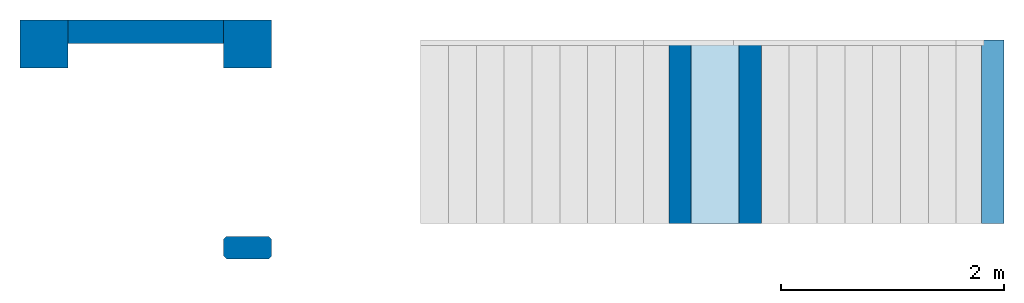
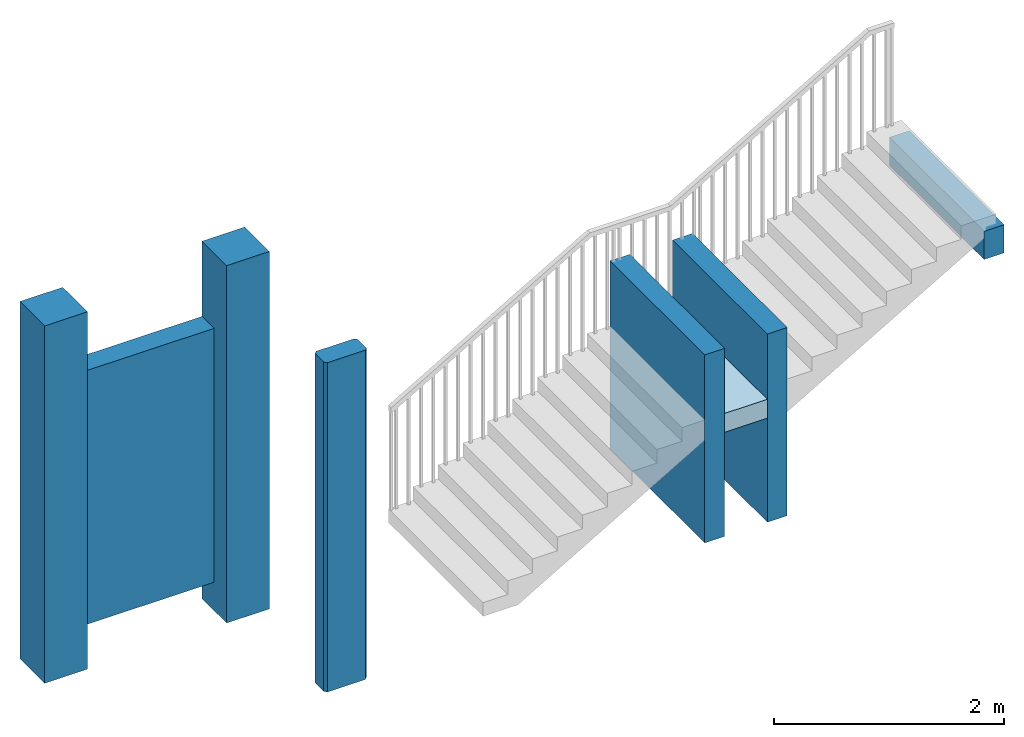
# One storey, part 1 of 3: 3 columns, 3 walls, 1 beam, 1 slab, 1 element without a shape of its own.
"""IFC2X3 building model written with IfcOpenShell, lengths in millimetres."""

from ifc_helpers import new_model, entity, si_unit, converted_unit, derived_unit, direction, frame, frame_2d, origin, origin_2d_with_axis, place, context, subcontext, project, spatial, polyline, rectangle, outline, extrude, source, transform, mapped, material, layer, layer_set, layer_usage, type_object, type_shapes, element, aggregate, save


model = new_model("IFC2X3")

# Units and contexts
model_context = context("Model", 3, precision=0.01, world=origin(), true_north=direction((6.12303176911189e-17, 1.0)))
body_context = subcontext(model_context, "Body", "Model", "MODEL_VIEW")
ifc_project = project(units=[si_unit("LENGTHUNIT", "METRE", prefix="MILLI"), si_unit("AREAUNIT", "SQUARE_METRE"), si_unit("VOLUMEUNIT", "CUBIC_METRE"), converted_unit("PLANEANGLEUNIT", "DEGREE", entity("IfcRatioMeasure", 0.0174532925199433), si_unit("PLANEANGLEUNIT", "RADIAN"), dimensions=[0, 0, 0, 0, 0, 0, 0]), si_unit("MASSUNIT", "GRAM", prefix="KILO"), derived_unit("MASSDENSITYUNIT", [(si_unit("MASSUNIT", "GRAM", prefix="KILO"), 1), (si_unit("LENGTHUNIT", "METRE"), -3)]), derived_unit("MOMENTOFINERTIAUNIT", [(si_unit("LENGTHUNIT", "METRE"), 4)]), si_unit("TIMEUNIT", "SECOND"), si_unit("FREQUENCYUNIT", "HERTZ"), si_unit("THERMODYNAMICTEMPERATUREUNIT", "DEGREE_CELSIUS"), derived_unit("THERMALTRANSMITTANCEUNIT", [(si_unit("MASSUNIT", "GRAM", prefix="KILO"), 1), (si_unit("THERMODYNAMICTEMPERATUREUNIT", "KELVIN"), -1), (si_unit("TIMEUNIT", "SECOND"), -3)]), derived_unit("VOLUMETRICFLOWRATEUNIT", [(si_unit("LENGTHUNIT", "METRE"), 3), (si_unit("TIMEUNIT", "SECOND"), -1)]), si_unit("ELECTRICCURRENTUNIT", "AMPERE"), si_unit("ELECTRICVOLTAGEUNIT", "VOLT"), si_unit("POWERUNIT", "WATT"), si_unit("FORCEUNIT", "NEWTON", prefix="KILO"), si_unit("ILLUMINANCEUNIT", "LUX"), si_unit("LUMINOUSFLUXUNIT", "LUMEN"), si_unit("LUMINOUSINTENSITYUNIT", "CANDELA"), derived_unit("USERDEFINED", [(si_unit("MASSUNIT", "GRAM", prefix="KILO"), -1), (si_unit("LENGTHUNIT", "METRE"), -2), (si_unit("TIMEUNIT", "SECOND"), 3), (si_unit("LUMINOUSFLUXUNIT", "LUMEN"), 1)]), derived_unit("LINEARVELOCITYUNIT", [(si_unit("LENGTHUNIT", "METRE"), 1), (si_unit("TIMEUNIT", "SECOND"), -1)]), si_unit("PRESSUREUNIT", "PASCAL"), derived_unit("USERDEFINED", [(si_unit("LENGTHUNIT", "METRE"), -2), (si_unit("MASSUNIT", "GRAM", prefix="KILO"), 1), (si_unit("TIMEUNIT", "SECOND"), -2)]), derived_unit("LINEARFORCEUNIT", [(si_unit("MASSUNIT", "GRAM", prefix="KILO"), 1), (si_unit("LENGTHUNIT", "METRE"), 1), (si_unit("TIMEUNIT", "SECOND"), -2), (si_unit("LENGTHUNIT", "METRE"), -1)]), derived_unit("PLANARFORCEUNIT", [(si_unit("MASSUNIT", "GRAM", prefix="KILO"), 1), (si_unit("LENGTHUNIT", "METRE"), 1), (si_unit("TIMEUNIT", "SECOND"), -2), (si_unit("LENGTHUNIT", "METRE"), -2)])], contexts=[model_context])

# Site, building, storey
site_placement = place(None, frame((10627.5135316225, 21939.0796949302, 0.0)))
site = spatial("IfcSite", under=ifc_project, at=site_placement, Name="Default", CompositionType="ELEMENT")
building_placement = place(site_placement, origin())
building = spatial("IfcBuilding", under=site, at=building_placement, CompositionType="ELEMENT")
storey_placement = place(building_placement, frame((0.0, 0.0, -3500.0)))
storey = spatial("IfcBuildingStorey", under=building, at=storey_placement, Name="R-1", CompositionType="ELEMENT", Elevation=-3500.0)

# Columns
ifc_material_1 = material(Name="Concrete, Precast Smooth, Light Grey")
column_type_1 = type_object("IfcColumnType", Name="M_Precast-Square Column:430x430", PredefinedType="COLUMN", material=ifc_material_1)
shared_shape_1 = source(origin(), body_context, "Body", "SweptSolid", [
    extrude(rectangle(XDim=430.0, YDim=430.000000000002, at=frame_2d((0.0, -1.08002495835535e-12), x_axis=(1.0, 0.0))), frame((-10627.5135316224, 18310.9203050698, -3800.0), z_axis=(0.0, 0.0, 1.0), x_axis=(0.0, -1.0, 0.0)), (0.0, 0.0, 1.0), 3800.0),
])
type_shapes(column_type_1, [shared_shape_1])
column_1_placement = place(storey_placement, frame((0.0, 0.0, 3500.0)))
element("IfcColumn", 1, at=column_1_placement, inside=storey, type_object=column_type_1, material=ifc_material_1, Name="M_Precast-Square Column:430x430", ObjectType="M_Precast-Square Column:430x430", context=body_context, shape_type="MappedRepresentation", body=[
    mapped(shared_shape_1, transform((0.0, 0.0, 0.0), scale=1.0)),
])
column_type_2 = type_object("IfcColumnType", Name="M_Precast-Square Column:430x430", PredefinedType="COLUMN", material=ifc_material_1)
shared_shape_2 = source(origin(), body_context, "Body", "SweptSolid", [
    extrude(rectangle(XDim=430.0, YDim=429.999999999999, at=frame_2d((0.0, 5.40012479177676e-13), x_axis=(1.0, 0.0))), frame((-8797.51353162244, 18310.9203050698, -3800.0), z_axis=(0.0, 0.0, 1.0), x_axis=(0.0, -1.0, 0.0)), (0.0, 0.0, 1.0), 3800.0),
])
type_shapes(column_type_2, [shared_shape_2])
column_2_placement = place(storey_placement, frame((0.0, 0.0, 3500.0)))
element("IfcColumn", 2, at=column_2_placement, inside=storey, type_object=column_type_2, material=ifc_material_1, Name="M_Precast-Square Column:430x430", ObjectType="M_Precast-Square Column:430x430", context=body_context, shape_type="MappedRepresentation", body=[
    mapped(shared_shape_2, transform((0.0, 0.0, 0.0), scale=1.0)),
])
ifc_material_2 = material(Name="Concrete - Precast Concrete - 35 MPa")
column_type_3 = type_object("IfcColumnType", Name="M_Precast-Rectangular Column:430X200", PredefinedType="COLUMN", material=ifc_material_2)
shared_shape_3 = source(origin(), body_context, "Body", "SweptSolid", [
    extrude(outline(polyline([(-75.0, -215.0), (75.0, -215.0), (100.0, -190.0), (100.0, 190.0), (75.0, 215.0), (-75.0, 215.0), (-100.0, 190.0), (-100.0, -190.0), (-75.0, -215.0)])), frame((0.0, 0.0, -3502.0), z_axis=(0.0, 0.0, 1.0), x_axis=(0.0, -1.0, 0.0)), (0.0, 0.0, 1.0), 3502.0),
])
type_shapes(column_type_3, [shared_shape_3])
column_3_placement = place(storey_placement, frame((-8797.51353162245, 16480.9203050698, 3500.0)))
element("IfcColumn", 3, at=column_3_placement, inside=storey, type_object=column_type_3, material=ifc_material_2, Name="M_Precast-Rectangular Column:430X200", ObjectType="M_Precast-Rectangular Column:430X200", context=body_context, shape_type="MappedRepresentation", body=[
    mapped(shared_shape_3, transform((0.0, 0.0, 0.0), scale=1.0)),
])

# Beam
ifc_material_3 = material(Name="Concrete, Cast-in-Place gray")
beam_type = type_object("IfcBeamType", Name="M_Concrete-Rectangular Beam:200x300 mm", PredefinedType="NOTDEFINED")
beam_placement = place(storey_placement, frame((-2102.51353162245, 16695.9579496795, 2330.0), z_axis=(0.0, 0.0, 1.0), x_axis=(0.0, 1.0, 0.0)))
element("IfcBeam", 4, at=beam_placement, inside=storey, type_object=beam_type, material=ifc_material_3, Name="M_Concrete-Rectangular Beam:200x300 mm", ObjectType="M_Concrete-Rectangular Beam:200x300 mm", context=body_context, shape_type="SweptSolid", body=[
    extrude(rectangle(XDim=300.0, YDim=200.000000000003, at=frame_2d((0.0, 1.35003119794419e-13), x_axis=(1.0, 0.0))), frame((0.0, 0.0, -150.0), z_axis=(1.0, 0.0, 0.0), x_axis=(0.0, 0.0, -1.0)), (0.0, 0.0, 1.0), 1649.96235539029),
])

# Stair, slab
stair_placement = place(storey_placement, origin())
stair = element("IfcStair", 5, at=stair_placement, inside=storey, Name="Precast Stair:Stair", ObjectType="Precast Stair:Precast_Stair", ShapeType="TWO_STRAIGHT_RUN_STAIR")
slab_type = type_object("IfcSlabType", Name="Monolithic Landing:200mm_Thickness", PredefinedType="LANDING")
slab_placement = place(stair_placement, origin())
slab = element("IfcSlab", 6, at=slab_placement, type_object=slab_type, material=ifc_material_3, Name="Precast Stair:Stair:496050 Landing 1", ObjectType="Monolithic Landing:200mm_Thickness", PredefinedType="LANDING", context=body_context, shape_type="SweptSolid", body=[
    extrude(rectangle(XDim=1650.0, YDim=700.0, at=origin_2d_with_axis()), frame((-4532.51353162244, 17520.9203050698, 1306.64705882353), z_axis=(0.0, 0.0, 1.0), x_axis=(0.0, -1.0, 0.0)), (0.0, 0.0, 1.0), 1.00000000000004),
    extrude(outline(polyline([(-500.0, -96.6666666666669), (300.0, -96.6666666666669), (300.0, -6.66666666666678), (200.0, -6.66666666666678), (200.0, 103.333333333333), (-500.0, 103.333333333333), (-500.0, -96.6666666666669)])), frame((-4682.51353162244, 16695.9203050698, 1203.3137254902), z_axis=(0.0, 1.0, 0.0), x_axis=(-1.0, 0.0, 0.0)), (0.0, 0.0, 1.0), 1650.0),
])
aggregate(stair, [slab])

# Walls
ifc_material_4 = material(Name="Concrete - Cast-in-Place Concrete")
ifc_layer_1 = layer(ifc_material_4, 200.0)
ifc_layer_set_1 = layer_set([ifc_layer_1], Name="Basic Wall:Mur S/SOL 20")
ifc_layer_usage_1 = layer_usage(ifc_layer_set_1, "AXIS2", "NEGATIVE", 100.0)
wall_type_1 = type_object("IfcWallType", Name="Basic Wall:Mur S/SOL 20", PredefinedType="STANDARD", material=ifc_layer_set_1)
wall_1_placement = place(storey_placement, frame((-4912.51353162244, 18345.9203050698, 0.0), z_axis=(0.0, 0.0, 1.0), x_axis=(0.0, -1.0, 0.0)))
element("IfcWallStandardCase", 7, at=wall_1_placement, inside=storey, type_object=wall_type_1, material=ifc_layer_usage_1, Name="Basic Wall:Mur S/SOL 20", ObjectType="Basic Wall:Mur S/SOL 20", context=body_context, shape_type="SweptSolid", body=[
    extrude(rectangle(XDim=1650.0, YDim=200.0, at=frame_2d((825.000000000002, 9.9475983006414e-14), x_axis=(-1.0, 0.0))), origin(), (0.0, 0.0, 1.0), 2000.0),
])
ifc_layer_usage_2 = layer_usage(ifc_layer_set_1, "AXIS2", "NEGATIVE", 100.0)
wall_2_placement = place(storey_placement, frame((-4282.51353162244, 18345.9203050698, 0.0), z_axis=(0.0, 0.0, 1.0), x_axis=(0.0, -1.0, 0.0)))
element("IfcWallStandardCase", 8, at=wall_2_placement, inside=storey, type_object=wall_type_1, material=ifc_layer_usage_2, Name="Basic Wall:Mur S/SOL 20", ObjectType="Basic Wall:Mur S/SOL 20", context=body_context, shape_type="SweptSolid", body=[
    extrude(rectangle(XDim=1650.0, YDim=200.0, at=frame_2d((825.000000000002, -1.77635683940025e-13), x_axis=(-1.0, 0.0))), origin(), (0.0, 0.0, 1.0), 2000.0),
])
ifc_layer_2 = layer(ifc_material_4, 210.0)
ifc_layer_set_2 = layer_set([ifc_layer_2], Name="Basic Wall:Mur S/SOL 21")
ifc_layer_usage_3 = layer_usage(ifc_layer_set_2, "AXIS2", "NEGATIVE", 105.0)
wall_type_2 = type_object("IfcWallType", Name="Basic Wall:Mur S/SOL 21", PredefinedType="STANDARD", material=ifc_layer_set_2)
wall_3_placement = place(storey_placement, frame((-10412.5135316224, 18420.9203050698, 0.0)))
element("IfcWallStandardCase", 9, at=wall_3_placement, inside=storey, type_object=wall_type_2, material=ifc_layer_usage_3, Name="Basic Wall:Mur S/SOL 21", ObjectType="Basic Wall:Mur S/SOL 21", context=body_context, shape_type="SweptSolid", body=[
    extrude(rectangle(XDim=1402.00000000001, YDim=210.0, at=frame_2d((701.000000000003, 0.0), x_axis=(-1.0, 0.0))), origin(), (0.0, 0.0, 1.0), 2700.0),
])

save(model, "model.ifc")
